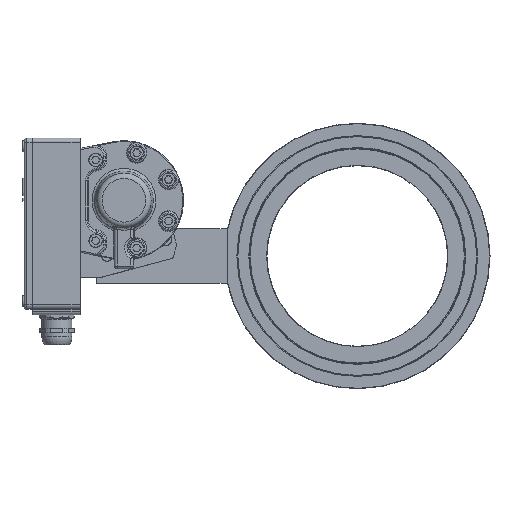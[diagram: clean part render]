
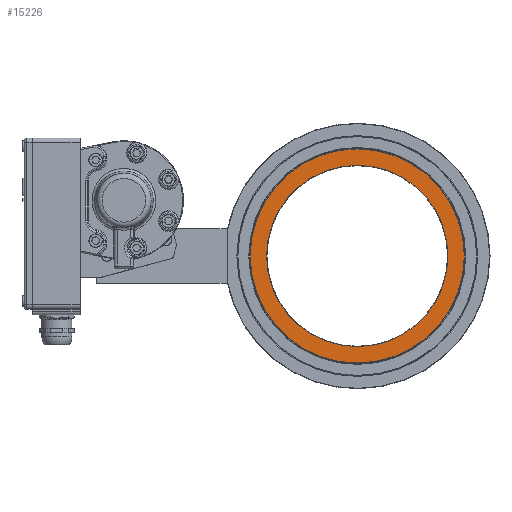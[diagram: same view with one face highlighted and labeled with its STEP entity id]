
A CAD part, top view. The second image highlights one B-rep face of the part: STEP entity #15226.
In plain terms, the highlighted planar face has unit normal (0, 0, 1).
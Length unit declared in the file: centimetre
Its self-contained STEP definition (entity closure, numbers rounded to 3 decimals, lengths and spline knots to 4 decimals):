
#4378=PLANE('',#16398);
#5172=VERTEX_POINT('',#30209);
#5173=VERTEX_POINT('',#30211);
#6378=CIRCLE('',#16430,7.825);
#6379=CIRCLE('',#16431,6.625);
#7317=EDGE_CURVE('',#5172,#5172,#6378,.T.);
#7318=EDGE_CURVE('',#5173,#5173,#6379,.T.);
#10076=ORIENTED_EDGE('',*,*,#7318,.F.);
#10077=ORIENTED_EDGE('',*,*,#7317,.F.);
#13055=EDGE_LOOP('',(#10076));
#13056=EDGE_LOOP('',(#10077));
#14214=FACE_BOUND('',#13055,.T.);
#14215=FACE_BOUND('',#13056,.T.);
#15226=ADVANCED_FACE('',(#14214,#14215),#4378,.F.);
#16398=AXIS2_PLACEMENT_3D('',#30151,#18424,$);
#16430=AXIS2_PLACEMENT_3D('',#30208,#18489,#18490);
#16431=AXIS2_PLACEMENT_3D('',#30210,#18491,#18492);
#18424=DIRECTION('',(0.,0.,-1.));
#18489=DIRECTION('',(0.,0.,-1.));
#18490=DIRECTION('',(-7.825,0.,0.));
#18491=DIRECTION('',(0.,0.,1.));
#18492=DIRECTION('',(6.625,0.,0.));
#30151=CARTESIAN_POINT('',(15.9598,-2.8808,-5.7025));
#30208=CARTESIAN_POINT('',(15.9598,-2.8808,-5.7025));
#30209=CARTESIAN_POINT('',(23.7848,-2.8808,-5.7025));
#30210=CARTESIAN_POINT('',(15.9598,-2.8808,-5.7025));
#30211=CARTESIAN_POINT('',(9.3348,-2.8808,-5.7025));
